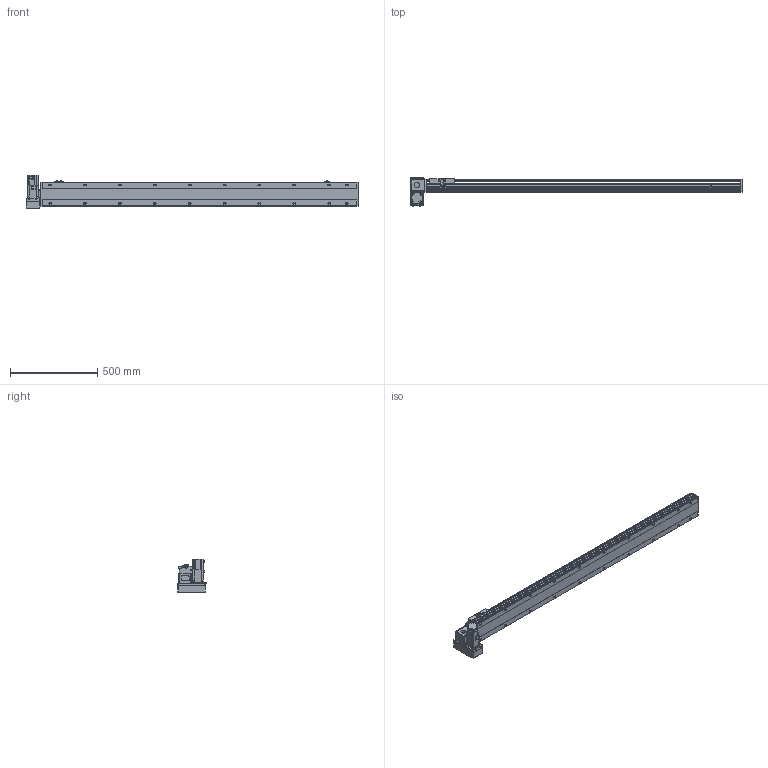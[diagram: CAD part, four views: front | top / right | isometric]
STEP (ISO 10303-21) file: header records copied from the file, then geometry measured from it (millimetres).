
FILE_DESCRIPTION( ( 'STEP AP214' ), '1' );
FILE_NAME( 'x:/temp/worker_27/temp/exporttempdir_6708_570_t5n9r/format_0/PBS140-P40-S1550-LD-T40-C1-N(0).stp', '2022-06-06T05:55:30', ( 'License CC BY-ND 4.0' ), ( 'CADENAS' ), ' ', 'PARTsolutions', ' ' );
FILE_SCHEMA( ( 'AUTOMOTIVE_DESIGN { 1 0 10303 214 1 1 1 1 }' ) );
Length unit declared in the file: millimetre
Products named in the file (7): PBS140-P40-S1550-LD-T40-C1-N(0); _PBS140-S1550()_body; _PBS140T-LD_motors; _T40-p1; _PBS140_sliser; _PBS140_plant; _PBS140_sensor
Assembly tree (8 placements, depth 2):
  PBS140-P40-S1550-LD-T40-C1-N(0)
    _PBS140-S1550()_body
    _PBS140T-LD_motors
    _T40-p1
    _PBS140_sliser
    _PBS140_plant
    _PBS140_sensor  x3
Bounding box: 1904 x 162 x 189.7 mm (x, y, z)
Volume: 8817787 mm3; surface area: 1521390.9 mm2
Topology: 8 solids, 8 shells, 1107 faces, 2916 edges, 1905 vertices
Faces by surface type: plane 704, cylinder 347, cone 46, sphere 8, torus 2
Full cylindrical faces by diameter (mm): 3.242 x4, 4 x2, 4.134 x4, 4.4 x8, 4.5 x2, 4.8 x4, 4.917 x28, 5.5 x7, 6 x2, 7 x22, 7.5 x8, 8 x12, 8.5 x4, 10.5 x20, 14 x1, 30 x2, 50 x2
Entity records: 40573 total; most frequent: CARTESIAN_POINT 6587, DIRECTION 5337, ORIENTED_EDGE 5032, EDGE_CURVE 2516, AXIS2_PLACEMENT_3D 1867, VERTEX_POINT 1749, LINE 1603, VECTOR 1603
